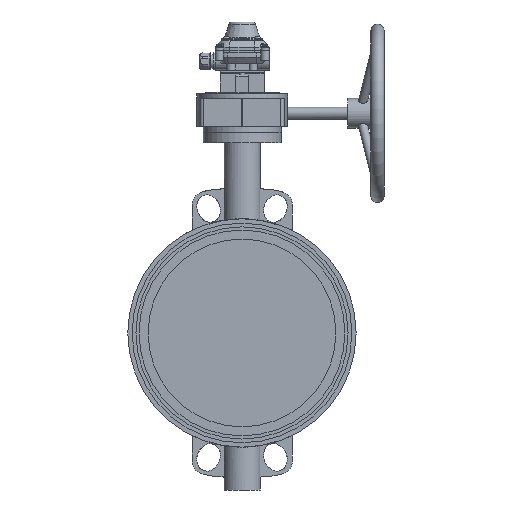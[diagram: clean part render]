
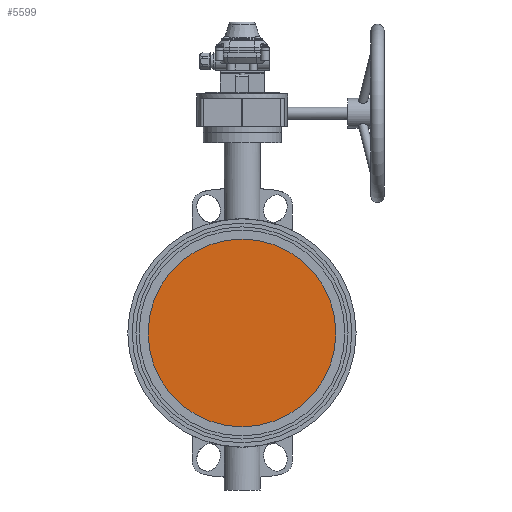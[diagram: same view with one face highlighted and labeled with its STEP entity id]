
A CAD part, front view. The second image highlights one B-rep face of the part: STEP entity #5599.
In plain terms, the highlighted planar face has unit normal (0, -1, 0).
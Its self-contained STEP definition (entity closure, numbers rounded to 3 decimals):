
#5599=ADVANCED_FACE('',(#10725),#10727,.T.);
#10725=FACE_BOUND('',#10726,.T.);
#10726=EDGE_LOOP('',(#14478,#14479));
#10727=PLANE('',#10728);
#10728=AXIS2_PLACEMENT_3D('',#10729,#10730,#10731);
#10729=CARTESIAN_POINT('',(280.162,-499.341,-41.494));
#10730=DIRECTION('',(0.,-1.,0.));
#10731=DIRECTION('',(1.,0.,0.));
#14478=ORIENTED_EDGE('',*,*,#16414,.T.);
#14479=ORIENTED_EDGE('',*,*,#16415,.T.);
#16414=EDGE_CURVE('',#19360,#19361,#19362,.T.);
#16415=EDGE_CURVE('',#19361,#19360,#19363,.T.);
#19360=VERTEX_POINT('',#36523);
#19361=VERTEX_POINT('',#36524);
#19362=CIRCLE('',#36525,150.);
#19363=CIRCLE('',#36529,150.);
#36523=CARTESIAN_POINT('',(280.162,-499.341,-191.494));
#36524=CARTESIAN_POINT('',(430.162,-499.341,-41.494));
#36525=AXIS2_PLACEMENT_3D('',#36526,#36527,#36528);
#36526=CARTESIAN_POINT('',(280.162,-499.341,-41.494));
#36527=DIRECTION('',(0.,-1.,0.));
#36528=DIRECTION('',(0.,0.,-1.));
#36529=AXIS2_PLACEMENT_3D('',#36530,#36531,#36532);
#36530=CARTESIAN_POINT('',(280.162,-499.341,-41.494));
#36531=DIRECTION('',(0.,-1.,0.));
#36532=DIRECTION('',(1.,0.,0.));
